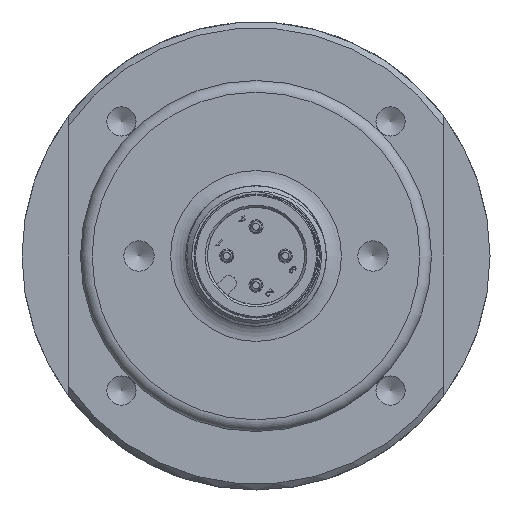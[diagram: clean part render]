
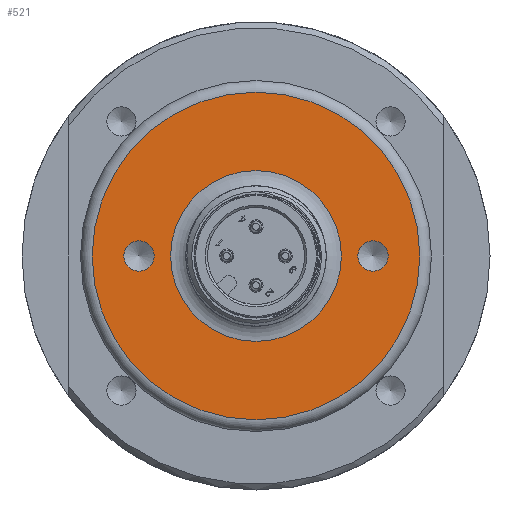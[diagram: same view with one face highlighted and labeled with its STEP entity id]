
A CAD part, front view. The second image highlights one B-rep face of the part: STEP entity #521.
In plain terms, the highlighted planar face has unit normal (0, -1, 0) as drawn and (0, 1, 0) by its records, which use the part's own axes.
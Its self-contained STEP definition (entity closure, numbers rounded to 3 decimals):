
#521 = ADVANCED_FACE( '', ( #1102, #1103, #1104, #1105 ), #1106, .T. );
#1102 = FACE_BOUND( '', #2343, .T. );
#1103 = FACE_OUTER_BOUND( '', #2344, .T. );
#1104 = FACE_BOUND( '', #2345, .T. );
#1105 = FACE_BOUND( '', #2346, .T. );
#1106 = PLANE( '', #2347 );
#2343 = EDGE_LOOP( '', ( #6754 ) );
#2344 = EDGE_LOOP( '', ( #6755 ) );
#2345 = EDGE_LOOP( '', ( #6756 ) );
#2346 = EDGE_LOOP( '', ( #6757 ) );
#2347 = AXIS2_PLACEMENT_3D( '', #6758, #6759, #6760 );
#6754 = ORIENTED_EDGE( '', *, *, #8580, .T. );
#6755 = ORIENTED_EDGE( '', *, *, #8581, .T. );
#6756 = ORIENTED_EDGE( '', *, *, #8582, .T. );
#6757 = ORIENTED_EDGE( '', *, *, #8583, .T. );
#6758 = CARTESIAN_POINT( '', ( -15., -2.104, 0. ) );
#6759 = DIRECTION( '', ( 0., 1., 0. ) );
#6760 = DIRECTION( '', ( -1., 0., 0. ) );
#8580 = EDGE_CURVE( '', #9331, #9331, #9332, .F. );
#8581 = EDGE_CURVE( '', #9333, #9333, #9334, .T. );
#8582 = EDGE_CURVE( '', #9335, #9335, #9336, .T. );
#8583 = EDGE_CURVE( '', #9337, #9337, #9338, .T. );
#9331 = VERTEX_POINT( '', #11342 );
#9332 = CIRCLE( '', #11343, 7.3 );
#9333 = VERTEX_POINT( '', #11344 );
#9334 = CIRCLE( '', #11345, 14. );
#9335 = VERTEX_POINT( '', #11346 );
#9336 = CIRCLE( '', #11347, 1.3 );
#9337 = VERTEX_POINT( '', #11348 );
#9338 = CIRCLE( '', #11349, 1.3 );
#11342 = CARTESIAN_POINT( '', ( -7.3, -2.104, 0. ) );
#11343 = AXIS2_PLACEMENT_3D( '', #14191, #14192, #14193 );
#11344 = CARTESIAN_POINT( '', ( -14., -2.104, 0. ) );
#11345 = AXIS2_PLACEMENT_3D( '', #14194, #14195, #14196 );
#11346 = CARTESIAN_POINT( '', ( -1.3, -2.104, -10. ) );
#11347 = AXIS2_PLACEMENT_3D( '', #14197, #14198, #14199 );
#11348 = CARTESIAN_POINT( '', ( -1.3, -2.104, 10. ) );
#11349 = AXIS2_PLACEMENT_3D( '', #14200, #14201, #14202 );
#14191 = CARTESIAN_POINT( '', ( 0., -2.104, 0. ) );
#14192 = DIRECTION( '', ( 0., 1., 0. ) );
#14193 = DIRECTION( '', ( -1., 0., 0. ) );
#14194 = CARTESIAN_POINT( '', ( 0., -2.104, 0. ) );
#14195 = DIRECTION( '', ( 0., 1., 0. ) );
#14196 = DIRECTION( '', ( -1., 0., 0. ) );
#14197 = CARTESIAN_POINT( '', ( 0., -2.104, -10. ) );
#14198 = DIRECTION( '', ( 0., -1., 0. ) );
#14199 = DIRECTION( '', ( -1., 0., 0. ) );
#14200 = CARTESIAN_POINT( '', ( 0., -2.104, 10. ) );
#14201 = DIRECTION( '', ( 0., -1., 0. ) );
#14202 = DIRECTION( '', ( -1., 0., 0. ) );
